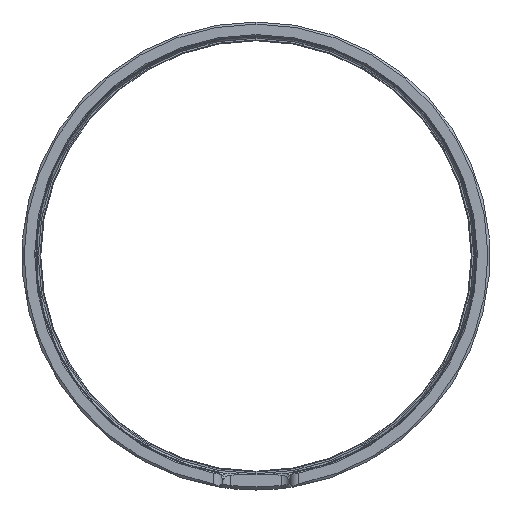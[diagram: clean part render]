
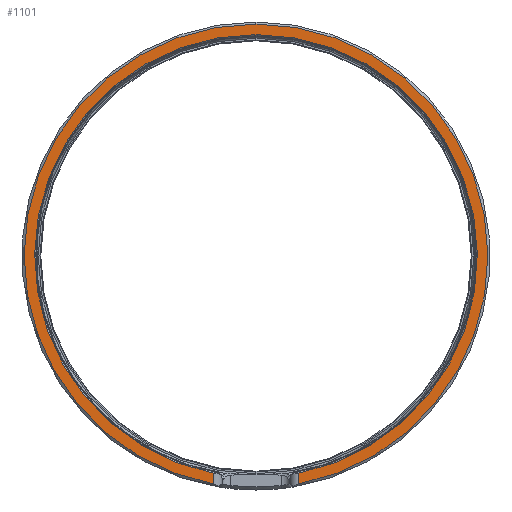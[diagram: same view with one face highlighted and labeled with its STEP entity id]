
A CAD part, left-side view. The second image highlights one B-rep face of the part: STEP entity #1101.
In plain terms, the highlighted planar face has unit normal (-1, 0, 0).
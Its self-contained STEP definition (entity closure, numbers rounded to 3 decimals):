
#498 = VERTEX_POINT ( 'NONE', #5659 ) ;
#511 = AXIS2_PLACEMENT_3D ( 'NONE', #3159, #1001, #4571 ) ;
#588 = EDGE_CURVE ( 'NONE', #5361, #2322, #5902, .T. ) ;
#697 = CARTESIAN_POINT ( 'NONE',  ( -400., 10.2, -56. ) ) ;
#1001 = DIRECTION ( 'NONE',  ( -1., 0., 0. ) ) ;
#1063 = EDGE_CURVE ( 'NONE', #2322, #1568, #3440, .T. ) ;
#1097 = FACE_OUTER_BOUND ( 'NONE', #1716, .T. ) ;
#1101 = ADVANCED_FACE ( 'NONE', ( #1097 ), #5794, .T. ) ;
#1209 = DIRECTION ( 'NONE',  ( -1., 0., 0. ) ) ;
#1348 = DIRECTION ( 'NONE',  ( 0., 0., 1. ) ) ;
#1522 = DIRECTION ( 'NONE',  ( -1., 0., 0. ) ) ;
#1568 = VERTEX_POINT ( 'NONE', #3649 ) ;
#1680 = CARTESIAN_POINT ( 'NONE',  ( -400., 0., 0. ) ) ;
#1716 = EDGE_LOOP ( 'NONE', ( #2077, #4550, #4430, #3652, #3918 ) ) ;
#1747 = EDGE_CURVE ( 'NONE', #5441, #1568, #3980, .T. ) ;
#1954 = VECTOR ( 'NONE', #5497, 1000. ) ;
#2077 = ORIENTED_EDGE ( 'NONE', *, *, #5462, .F. ) ;
#2156 = VECTOR ( 'NONE', #4344, 1000. ) ;
#2322 = VERTEX_POINT ( 'NONE', #2977 ) ;
#2649 = AXIS2_PLACEMENT_3D ( 'NONE', #1680, #5200, #2931 ) ;
#2723 = CARTESIAN_POINT ( 'NONE',  ( -400., -10.2, -51.984 ) ) ;
#2907 = CARTESIAN_POINT ( 'NONE',  ( -400., 0., 0. ) ) ;
#2931 = DIRECTION ( 'NONE',  ( 0., 0., -1. ) ) ;
#2977 = CARTESIAN_POINT ( 'NONE',  ( -400., 10.2, -54.555 ) ) ;
#3159 = CARTESIAN_POINT ( 'NONE',  ( -400., 0., 0. ) ) ;
#3295 = LINE ( 'NONE', #4197, #1954 ) ;
#3332 = AXIS2_PLACEMENT_3D ( 'NONE', #2907, #1522, #4233 ) ;
#3440 = LINE ( 'NONE', #697, #2156 ) ;
#3649 = CARTESIAN_POINT ( 'NONE',  ( -400., 10.2, -51.984 ) ) ;
#3652 = ORIENTED_EDGE ( 'NONE', *, *, #1063, .T. ) ;
#3918 = ORIENTED_EDGE ( 'NONE', *, *, #1747, .F. ) ;
#3980 = CIRCLE ( 'NONE', #4754, 52.975 ) ;
#4197 = CARTESIAN_POINT ( 'NONE',  ( -400., -10.2, -56. ) ) ;
#4233 = DIRECTION ( 'NONE',  ( 0., 0., 1. ) ) ;
#4266 = CIRCLE ( 'NONE', #511, 55.5 ) ;
#4344 = DIRECTION ( 'NONE',  ( 0., 0., 1. ) ) ;
#4430 = ORIENTED_EDGE ( 'NONE', *, *, #588, .T. ) ;
#4481 = CARTESIAN_POINT ( 'NONE',  ( -400., 0., 0. ) ) ;
#4550 = ORIENTED_EDGE ( 'NONE', *, *, #5166, .T. ) ;
#4571 = DIRECTION ( 'NONE',  ( 0., 0., 1. ) ) ;
#4754 = AXIS2_PLACEMENT_3D ( 'NONE', #4481, #1209, #1348 ) ;
#5124 = CARTESIAN_POINT ( 'NONE',  ( -400., 0., 55.5 ) ) ;
#5166 = EDGE_CURVE ( 'NONE', #498, #5361, #4266, .T. ) ;
#5200 = DIRECTION ( 'NONE',  ( -1., 0., 0. ) ) ;
#5361 = VERTEX_POINT ( 'NONE', #5124 ) ;
#5441 = VERTEX_POINT ( 'NONE', #2723 ) ;
#5462 = EDGE_CURVE ( 'NONE', #498, #5441, #3295, .T. ) ;
#5497 = DIRECTION ( 'NONE',  ( 0., 0., 1. ) ) ;
#5659 = CARTESIAN_POINT ( 'NONE',  ( -400., -10.2, -54.555 ) ) ;
#5794 = PLANE ( 'NONE',  #2649 ) ;
#5902 = CIRCLE ( 'NONE', #3332, 55.5 ) ;
